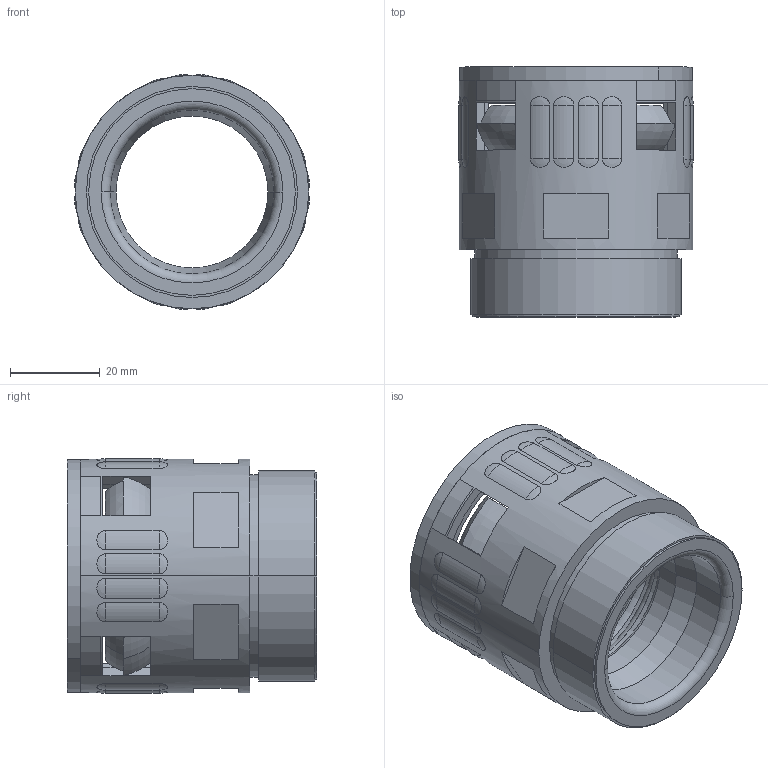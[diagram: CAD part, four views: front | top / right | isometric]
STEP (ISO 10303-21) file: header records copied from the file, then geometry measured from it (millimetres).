
FILE_DESCRIPTION (( 'STEP AP203' ), '1' );
FILE_NAME ('WQG-P36-AD42.5.STEP', '2020-03-12T07:59:08', ( '' ), ( '' ), 'SwSTEP 2.0', 'SolidWorks 2016', '' );
FILE_SCHEMA (( 'CONFIG_CONTROL_DESIGN' ));
Length unit declared in the file: millimetre
Products named in the file (4): NSK-AD42.5; GFD-AD42.5; WQG-P36-AD42.5-01; WQG-P36-AD42.5
Assembly tree (3 placements, depth 2):
  WQG-P36-AD42.5
    WQG-P36-AD42.5-01
    GFD-AD42.5
    NSK-AD42.5
Bounding box: 52.21 x 55.65 x 52.21 mm (x, y, z)
Volume: 37723.3 mm3; surface area: 35267 mm2
Topology: 3 solids, 4 shells, 317 faces, 804 edges, 489 vertices
Faces by surface type: plane 114, cone 89, cylinder 43, torus 39, sphere 32
Entity records: 10382 total; most frequent: CARTESIAN_POINT 2584, DIRECTION 1638, ORIENTED_EDGE 1480, EDGE_CURVE 740, AXIS2_PLACEMENT_3D 671, VERTEX_POINT 457, EDGE_LOOP 367, CIRCLE 348
